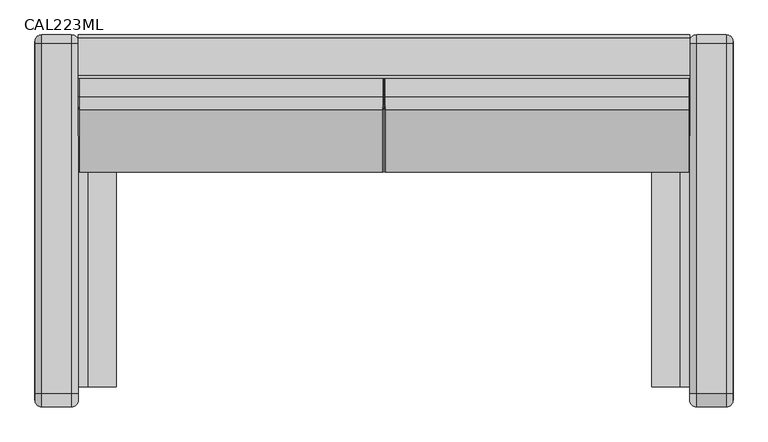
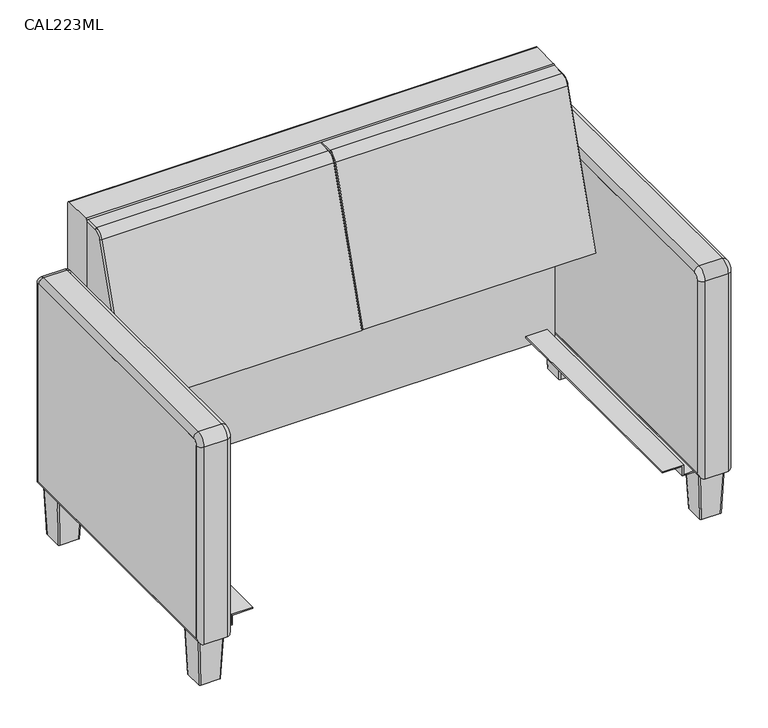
"""IFC4 building model written with IfcOpenShell, lengths in millimetres: furniture geometry, Stance_Healthacare-Carlson-Arm_Chair : CAL223ML."""

from ifc_helpers import new_model, si_unit, point, frame, frame_2d, origin, place, context, project, spatial, polyline, circle_curve, ellipse_curve, trimmed, segment, composite_curve, outline, extrude, source, transform, mapped, element, save
from ifc_brep_helpers import plane_surface, cylinder_surface, revolved_surface, extruded_surface, advanced_brep


def cal223ml_52b3e110(model_context):
    return source(origin(), model_context, "Body", "SolidModel", [
        extrude(outline(polyline([(120.65, 593.725), (123.825, 593.725), (123.825, 565.15), (149.225, 565.15), (149.225, 511.175), (146.05, 511.175), (146.05, 561.975), (120.65, 561.975), (120.65, 593.725)])), frame((0.0, -299.4664097, 0.0), z_axis=(0.0, 1.0, 0.0), x_axis=(0.0, 0.0, 1.0)), (0.0, 0.0, 1.0), 635.0),
        extrude(outline(composite_curve([segment(trimmed(circle_curve(frame_2d((357.7585903, 655.6502)), 3.175), [point((357.7585903, 658.8252))], [point((360.9335903, 655.6502))], False, "CARTESIAN"), True, "CONTINUOUS"), segment(polyline([(360.9335903, 655.6502), (360.9335903, 136.525), (-324.8664097, 136.525), (-324.8664097, 646.1252)]), True, "CONTINUOUS"), segment(trimmed(circle_curve(frame_2d((-312.1664097, 646.1252)), 12.7), [point((-324.8664097, 646.1252))], [point((-312.1664097, 658.8252))], False, "CARTESIAN"), True, "CONTINUOUS"), segment(polyline([(-312.1664097, 658.8252), (357.7585903, 658.8252)]), True, "CONTINUOUS")], self_intersect=False)), frame((584.2, 0.0, 0.0), z_axis=(1.0, 0.0, 0.0), x_axis=(0.0, 1.0, 0.0)), (0.0, 0.0, 1.0), 82.55),
        advanced_brep(
        [(596.9, 357.7585903, 671.5252), (654.05, 357.7585903, 671.5252), (654.05, 373.6335903, 655.6502), (596.9, 373.6335903, 655.6502), (584.2, 357.7585903, 658.8252), (584.2, 360.9335903, 655.6502), (666.75, 357.7585903, 658.8252), (666.75, 360.9335903, 655.6502), (596.9, -312.1664097, 671.5252), (654.05, -312.1664097, 671.5252), (584.2, -312.1664097, 658.8252), (666.75, -312.1664097, 658.8252), (596.9, -337.5664097, 646.1252), (654.05, -337.5664097, 646.1252), (584.2, -324.8664097, 646.1252), (666.75, -324.8664097, 646.1252), (596.9, -337.5664097, 123.825), (654.05, -337.5664097, 123.825), (584.2, -324.8664097, 136.525), (666.75, -324.8664097, 136.525), (596.9, 373.6335903, 123.825), (654.05, 373.6335903, 123.825), (584.2, 360.9335903, 136.525), (666.75, 360.9335903, 136.525)],
        [
            (0, 1),
            (1, 2, circle_curve(frame((654.05, 357.7585903, 655.6502), z_axis=(-1.0, 0.0, 0.0), x_axis=(0.0, 1.0, 0.0)), 15.875)),
            (2, 3),
            (3, 0, circle_curve(frame((596.9, 357.7585903, 655.6502), z_axis=(1.0, 0.0, 0.0), x_axis=(0.0, 1.0, 0.0)), 15.875)),
            (4, 0, circle_curve(frame((596.9, 357.7585903, 658.8252), z_axis=(0.0, 1.0, 0.0), x_axis=(-1.0, 0.0, 0.0)), 12.7)),
            (3, 5, circle_curve(frame((596.9, 360.9335903, 655.6502), z_axis=(0.0, 0.0, 1.0), x_axis=(-1.0, 0.0, 0.0)), 12.7)),
            (5, 4, circle_curve(frame((584.2, 357.7585903, 655.6502), z_axis=(1.0, 0.0, 0.0), x_axis=(0.0, 1.0, 0.0)), 3.175)),
            (6, 4),
            (5, 7),
            (7, 6, circle_curve(frame((666.75, 357.7585903, 655.6502), z_axis=(1.0, 0.0, 0.0), x_axis=(0.0, 1.0, 0.0)), 3.175)),
            (1, 6, circle_curve(frame((654.05, 357.7585903, 658.8252), z_axis=(0.0, 1.0, 0.0), x_axis=(-1.0, 0.0, 0.0)), 12.7)),
            (7, 2, circle_curve(frame((654.05, 360.9335903, 655.6502), z_axis=(0.0, 0.0, 1.0), x_axis=(-1.0, 0.0, 0.0)), 12.7)),
            (0, 8),
            (8, 9),
            (9, 1),
            (4, 10),
            (10, 8, circle_curve(frame((596.9, -312.1664097, 658.8252), z_axis=(0.0, 1.0, 0.0), x_axis=(-1.0, 0.0, 0.0)), 12.7)),
            (6, 11),
            (11, 10),
            (9, 11, circle_curve(frame((654.05, -312.1664097, 658.8252), z_axis=(0.0, 1.0, 0.0), x_axis=(-1.0, 0.0, 0.0)), 12.7)),
            (12, 13),
            (13, 9, circle_curve(frame((654.05, -312.1664097, 646.1252), z_axis=(-1.0, 0.0, 0.0), x_axis=(0.0, 0.0, 1.0)), 25.4)),
            (8, 12, circle_curve(frame((596.9, -312.1664097, 646.1252), z_axis=(1.0, 0.0, 0.0), x_axis=(0.0, 0.0, 1.0)), 25.4)),
            (14, 12, circle_curve(frame((596.9, -324.8664097, 646.1252), z_axis=(0.0, 0.0, 1.0), x_axis=(-1.0, 0.0, 0.0)), 12.7)),
            (10, 14, circle_curve(frame((584.2, -312.1664097, 646.1252), z_axis=(1.0, 0.0, 0.0), x_axis=(0.0, 0.0, 1.0)), 12.7)),
            (15, 14),
            (11, 15, circle_curve(frame((666.75, -312.1664097, 646.1252), z_axis=(1.0, 0.0, 0.0), x_axis=(0.0, 0.0, 1.0)), 12.7)),
            (13, 15, circle_curve(frame((654.05, -324.8664097, 646.1252), z_axis=(0.0, 0.0, 1.0), x_axis=(-1.0, 0.0, 0.0)), 12.7)),
            (12, 16),
            (16, 17),
            (17, 13),
            (14, 18),
            (18, 16, ellipse_curve(frame((596.9, -324.8664097, 136.525), z_axis=(0.0, -0.7071067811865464, 0.7071067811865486), x_axis=(0.0, 0.7071067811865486, 0.7071067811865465)), 17.9605122, 12.7)),
            (15, 19),
            (19, 18),
            (17, 19, ellipse_curve(frame((654.05, -324.8664097, 136.525), z_axis=(0.0, -0.7071067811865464, 0.7071067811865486), x_axis=(0.0, 0.7071067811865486, 0.7071067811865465)), 17.9605122, 12.7)),
            (16, 20),
            (20, 21),
            (21, 17),
            (18, 22),
            (22, 20, ellipse_curve(frame((596.9, 360.9335903, 136.525), z_axis=(0.0, -0.7071067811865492, -0.7071067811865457), x_axis=(0.0, -0.7071067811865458, 0.7071067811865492)), 17.9605122, 12.7)),
            (19, 23),
            (23, 22),
            (21, 23, ellipse_curve(frame((654.05, 360.9335903, 136.525), z_axis=(0.0, -0.7071067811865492, -0.7071067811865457), x_axis=(0.0, -0.7071067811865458, 0.7071067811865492)), 17.9605122, 12.7)),
            (20, 3),
            (2, 21),
            (22, 5),
            (23, 7),
        ],
        [
            cylinder_surface(frame((584.2, 357.7585903, 655.6502), z_axis=(-1.0, 0.0, 0.0), x_axis=(0.0, 1.0, 0.0)), 15.875),
            revolved_surface(trimmed(ellipse_curve(frame((596.9, 360.9335903, 655.6502), z_axis=(0.0, 0.0, 1.0), x_axis=(-1.0, 0.0, 0.0)), 12.7, 12.7), [point((596.9, 373.6335903, 655.6502))], [point((584.2, 360.9335903, 655.6502))], True, "CARTESIAN"), (584.2, 357.7585903, 655.6502), (-1.0, 0.0, 0.0)),
            revolved_surface(polyline([(584.2, 360.9335903, 655.6502), (666.75, 360.9335903, 655.6502)]), (584.2, 357.7585903, 655.6502), (-1.0, 0.0, 0.0)),
            revolved_surface(trimmed(ellipse_curve(frame((654.05, 360.9335903, 655.6502), z_axis=(0.0, 0.0, 1.0), x_axis=(-1.0, 0.0, 0.0)), 12.7, 12.7), [point((666.75, 360.9335903, 655.6502))], [point((654.05, 373.6335903, 655.6502))], True, "CARTESIAN"), (584.2, 357.7585903, 655.6502), (-1.0, 0.0, 0.0)),
            plane_surface(frame((654.05, 357.7585903, 671.5252), z_axis=(0.0, 0.0, 1.0), x_axis=(0.0, -1.0, 0.0))),
            cylinder_surface(frame((596.9, 357.7585903, 658.8252), z_axis=(0.0, 1.0, 0.0), x_axis=(-1.0, 0.0, 0.0)), 12.7),
            plane_surface(frame((584.2, 357.7585903, 658.8252), z_axis=(0.0, 0.0, -1.0), x_axis=(0.0, -1.0, 0.0))),
            cylinder_surface(frame((654.05, 357.7585903, 658.8252), z_axis=(0.0, 1.0, 0.0), x_axis=(-1.0, 0.0, 0.0)), 12.7),
            cylinder_surface(frame((584.2, -312.1664097, 646.1252), z_axis=(-1.0, 0.0, 0.0), x_axis=(0.0, 0.0, 1.0)), 25.4),
            revolved_surface(trimmed(ellipse_curve(frame((596.9, -312.1664097, 658.8252), z_axis=(0.0, -1.0, 0.0), x_axis=(-1.0, 0.0, 0.0)), 12.7, 12.7), [point((596.9, -312.1664097, 671.5252))], [point((584.2, -312.1664097, 658.8252))], True, "CARTESIAN"), (584.2, -312.1664097, 646.1252), (-1.0, 0.0, 0.0)),
            revolved_surface(polyline([(584.2, -312.1664097, 658.8252), (666.75, -312.1664097, 658.8252)]), (584.2, -312.1664097, 646.1252), (-1.0, 0.0, 0.0)),
            revolved_surface(trimmed(ellipse_curve(frame((654.05, -312.1664097, 658.8252), z_axis=(0.0, -1.0, 0.0), x_axis=(-1.0, 0.0, 0.0)), 12.7, 12.7), [point((666.75, -312.1664097, 658.8252))], [point((654.05, -312.1664097, 671.5252))], True, "CARTESIAN"), (584.2, -312.1664097, 646.1252), (-1.0, 0.0, 0.0)),
            plane_surface(frame((654.05, -337.5664097, 646.1252), z_axis=(0.0, -1.0, 0.0), x_axis=(0.0, 0.0, -1.0))),
            cylinder_surface(frame((596.9, -324.8664097, 646.1252), z_axis=(0.0, 0.0, 1.0), x_axis=(-1.0, 0.0, 0.0)), 12.7),
            plane_surface(frame((584.2, -324.8664097, 646.1252), z_axis=(0.0, 1.0, 0.0), x_axis=(0.0, 0.0, -1.0))),
            cylinder_surface(frame((654.05, -324.8664097, 646.1252), z_axis=(0.0, 0.0, 1.0), x_axis=(-1.0, 0.0, 0.0)), 12.7),
            plane_surface(frame((654.05, -337.5664097, 123.825), z_axis=(0.0, 0.0, -1.0), x_axis=(0.0, 1.0, 0.0))),
            cylinder_surface(frame((596.9, -337.5664097, 136.525), z_axis=(0.0, -1.0, 0.0), x_axis=(-1.0, 0.0, 0.0)), 12.7),
            plane_surface(frame((584.2, -324.8664097, 136.525), z_axis=(0.0, 0.0, 1.0), x_axis=(0.0, 1.0, 0.0))),
            cylinder_surface(frame((654.05, -337.5664097, 136.525), z_axis=(0.0, -1.0, 0.0), x_axis=(-1.0, 0.0, 0.0)), 12.7),
            plane_surface(frame((654.05, 373.6335903, 123.825), z_axis=(0.0, 1.0, 0.0), x_axis=(0.0, 0.0, 1.0))),
            cylinder_surface(frame((596.9, 360.9335903, 123.825), z_axis=(0.0, 0.0, -1.0), x_axis=(-1.0, 0.0, 0.0)), 12.7),
            plane_surface(frame((584.2, 360.9335903, 136.525), z_axis=(0.0, -1.0, 0.0), x_axis=(0.0, 0.0, 1.0))),
            cylinder_surface(frame((654.05, 360.9335903, 123.825), z_axis=(0.0, 0.0, -1.0), x_axis=(-1.0, 0.0, 0.0)), 12.7),
        ],
        [
            (0, [[1, 2, 3, 4]]),
            (1, [[5, -4, 6, 7]]),
            (2, [[8, -7, 9, 10]]),
            (3, [[11, -10, 12, -2]]),
            (4, [[13, 14, 15, -1]]),
            (5, [[16, 17, -13, -5]]),
            (6, [[18, 19, -16, -8]]),
            (7, [[-15, 20, -18, -11]]),
            (8, [[21, 22, -14, 23]]),
            (9, [[24, -23, -17, 25]]),
            (10, [[26, -25, -19, 27]]),
            (11, [[28, -27, -20, -22]]),
            (12, [[29, 30, 31, -21]]),
            (13, [[32, 33, -29, -24]]),
            (14, [[34, 35, -32, -26]]),
            (15, [[-31, 36, -34, -28]]),
            (16, [[37, 38, 39, -30]]),
            (17, [[40, 41, -37, -33]]),
            (18, [[42, 43, -40, -35]]),
            (19, [[-39, 44, -42, -36]]),
            (20, [[45, -3, 46, -38]]),
            (21, [[47, -6, -45, -41]]),
            (22, [[48, -9, -47, -43]]),
            (23, [[-46, -12, -48, -44]]),
        ],
    ),
        advanced_brep(
        [(596.9, 291.0835903, 123.825), (654.05, 291.0835903, 123.825), (657.225, 294.2585903, 123.825), (657.225, 351.4085903, 123.825), (654.05, 354.5835903, 123.825), (596.9, 354.5835903, 123.825), (593.725, 351.4085903, 123.825), (593.725, 294.2585903, 123.825), (602.059375, 296.2112153, 0.0), (598.884375, 299.3862153, 0.0), (598.884375, 346.2809653, 0.0), (602.059375, 349.4559653, 0.0), (648.890625, 349.4559653, 0.0), (652.065625, 346.2809653, 0.0), (652.065625, 299.3862153, 0.0), (648.890625, 296.2112153, 0.0)],
        [
            (0, 1),
            (1, 2, circle_curve(frame((654.05, 294.2585903, 123.825), z_axis=(0.0, 0.0, 1.0), x_axis=(-1.0, 0.0, 0.0)), 3.175)),
            (2, 3),
            (3, 4, circle_curve(frame((654.05, 351.4085903, 123.825), z_axis=(0.0, 0.0, 1.0), x_axis=(-1.0, 0.0, 0.0)), 3.175)),
            (4, 5),
            (5, 6, circle_curve(frame((596.9, 351.4085903, 123.825), z_axis=(0.0, 0.0, 1.0), x_axis=(-1.0, 0.0, 0.0)), 3.175)),
            (6, 7),
            (7, 0, circle_curve(frame((596.9, 294.2585903, 123.825), z_axis=(0.0, 0.0, 1.0), x_axis=(-1.0, 0.0, 0.0)), 3.175)),
            (8, 9, circle_curve(frame((602.059375, 299.3862153, 0.0), z_axis=(0.0, 0.0, -1.0), x_axis=(-1.0, 0.0, 0.0)), 3.175)),
            (9, 10),
            (10, 11, circle_curve(frame((602.059375, 346.2809653, 0.0), z_axis=(0.0, 0.0, -1.0), x_axis=(-1.0, 0.0, 0.0)), 3.175)),
            (11, 12),
            (12, 13, circle_curve(frame((648.890625, 346.2809653, 0.0), z_axis=(0.0, 0.0, -1.0), x_axis=(-1.0, 0.0, 0.0)), 3.175)),
            (13, 14),
            (14, 15, circle_curve(frame((648.890625, 299.3862153, 0.0), z_axis=(0.0, 0.0, -1.0), x_axis=(-1.0, 0.0, 0.0)), 3.175)),
            (15, 8),
            (8, 0),
            (7, 9),
            (6, 10),
            (5, 11),
            (4, 12),
            (3, 13),
            (2, 14),
            (1, 15),
        ],
        [
            plane_surface(frame((625.475, 322.8335903, 123.825), z_axis=(0.0, 0.0, 1.0), x_axis=(-1.0, 0.0, 0.0))),
            plane_surface(frame((625.475, 322.8335903, 0.0), z_axis=(0.0, 0.0, -1.0), x_axis=(-1.0, 0.0, 0.0))),
            extruded_surface(trimmed(circle_curve(frame((596.9, 294.2585903, 123.825), z_axis=(0.0, 0.0, -1.0), x_axis=(-1.0, 0.0, 0.0)), 3.175), [point((596.9, 291.0835903, 123.825))], [point((593.725, 294.2585903, 123.825))], True, "CARTESIAN"), (5.159375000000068, 5.127625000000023, -123.825), 124.03847110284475),
            plane_surface(frame((598.884375, 322.8335903, 0.0), z_axis=(-0.9991330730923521, 0.0, -0.04163054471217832), x_axis=(0.0, 1.0, 0.0))),
            extruded_surface(trimmed(circle_curve(frame((596.9, 351.4085903, 123.825), z_axis=(0.0, 0.0, -1.0), x_axis=(-1.0, 0.0, 0.0)), 3.175), [point((593.725, 351.4085903, 123.825))], [point((596.9, 354.5835903, 123.825))], True, "CARTESIAN"), (5.159375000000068, -5.127625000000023, -123.825), 124.03847110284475),
            plane_surface(frame((625.475, 349.4559653, 0.0), z_axis=(0.0, 0.9991436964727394, -0.04137479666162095), x_axis=(1.0, 0.0, 0.0))),
            extruded_surface(trimmed(circle_curve(frame((654.05, 351.4085903, 123.825), z_axis=(0.0, 0.0, -1.0), x_axis=(-1.0, 0.0, 0.0)), 3.175), [point((654.05, 354.5835903, 123.825))], [point((657.225, 351.4085903, 123.825))], True, "CARTESIAN"), (-5.1593749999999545, -5.127625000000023, -123.825), 124.03847110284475),
            plane_surface(frame((652.065625, 322.8335903, 0.0), z_axis=(0.9991330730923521, 0.0, -0.04163054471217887), x_axis=(0.0, -1.0, 0.0))),
            extruded_surface(trimmed(circle_curve(frame((654.05, 294.2585903, 123.825), z_axis=(0.0, 0.0, -1.0), x_axis=(-1.0, 0.0, 0.0)), 3.175), [point((657.225, 294.2585903, 123.825))], [point((654.05, 291.0835903, 123.825))], True, "CARTESIAN"), (-5.1593749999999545, 5.127625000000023, -123.825), 124.03847110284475),
            plane_surface(frame((625.475, 296.2112153, 0.0), z_axis=(0.0, -0.9991436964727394, -0.0413747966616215), x_axis=(-1.0, 0.0, 0.0))),
        ],
        [
            (0, [[1, 2, 3, 4, 5, 6, 7, 8]]),
            (1, [[9, 10, 11, 12, 13, 14, 15, 16]]),
            (2, [[17, -8, 18, -9]]),
            (3, [[-18, -7, 19, -10]]),
            (4, [[-19, -6, 20, -11]]),
            (5, [[-20, -5, 21, -12]]),
            (6, [[-21, -4, 22, -13]]),
            (7, [[-22, -3, 23, -14]]),
            (8, [[-23, -2, 24, -15]]),
            (9, [[-24, -1, -17, -16]]),
        ],
    ),
        advanced_brep(
        [(596.9, -255.0164097, 123.825), (593.725, -258.1914097, 123.825), (593.725, -315.3414097, 123.825), (596.9, -318.5164097, 123.825), (654.05, -318.5164097, 123.825), (657.225, -315.3414097, 123.825), (657.225, -258.1914097, 123.825), (654.05, -255.0164097, 123.825), (602.059375, -260.1440347, 0.0), (648.890625, -260.1440347, 0.0), (652.065625, -263.3190347, 0.0), (652.065625, -310.2137847, 0.0), (648.890625, -313.3887847, 0.0), (602.059375, -313.3887847, 0.0), (598.884375, -310.2137847, 0.0), (598.884375, -263.3190347, 0.0)],
        [
            (0, 1, circle_curve(frame((596.9, -258.1914097, 123.825), z_axis=(0.0, 0.0, 1.0), x_axis=(-1.0, 0.0, 0.0)), 3.175)),
            (1, 2),
            (2, 3, circle_curve(frame((596.9, -315.3414097, 123.825), z_axis=(0.0, 0.0, 1.0), x_axis=(-1.0, 0.0, 0.0)), 3.175)),
            (3, 4),
            (4, 5, circle_curve(frame((654.05, -315.3414097, 123.825), z_axis=(0.0, 0.0, 1.0), x_axis=(-1.0, 0.0, 0.0)), 3.175)),
            (5, 6),
            (6, 7, circle_curve(frame((654.05, -258.1914097, 123.825), z_axis=(0.0, 0.0, 1.0), x_axis=(-1.0, 0.0, 0.0)), 3.175)),
            (7, 0),
            (8, 9),
            (9, 10, circle_curve(frame((648.890625, -263.3190347, 0.0), z_axis=(0.0, 0.0, -1.0), x_axis=(-1.0, 0.0, 0.0)), 3.175)),
            (10, 11),
            (11, 12, circle_curve(frame((648.890625, -310.2137847, 0.0), z_axis=(0.0, 0.0, -1.0), x_axis=(-1.0, 0.0, 0.0)), 3.175)),
            (12, 13),
            (13, 14, circle_curve(frame((602.059375, -310.2137847, 0.0), z_axis=(0.0, 0.0, -1.0), x_axis=(-1.0, 0.0, 0.0)), 3.175)),
            (14, 15),
            (15, 8, circle_curve(frame((602.059375, -263.3190347, 0.0), z_axis=(0.0, 0.0, -1.0), x_axis=(-1.0, 0.0, 0.0)), 3.175)),
            (8, 0),
            (7, 9),
            (6, 10),
            (5, 11),
            (4, 12),
            (3, 13),
            (2, 14),
            (1, 15),
        ],
        [
            plane_surface(frame((625.475, -286.7664097, 123.825), z_axis=(0.0, 0.0, 1.0), x_axis=(-1.0, 0.0, 0.0))),
            plane_surface(frame((625.475, -286.7664097, 0.0), z_axis=(0.0, 0.0, -1.0), x_axis=(-1.0, 0.0, 0.0))),
            plane_surface(frame((625.475, -260.1440347, 0.0), z_axis=(0.0, 0.9991436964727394, -0.041374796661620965), x_axis=(1.0, 0.0, 0.0))),
            extruded_surface(trimmed(circle_curve(frame((654.05, -258.1914097, 123.825), z_axis=(0.0, 0.0, -1.0), x_axis=(-1.0, 0.0, 0.0)), 3.175), [point((654.05, -255.0164097, 123.825))], [point((657.225, -258.1914097, 123.825))], True, "CARTESIAN"), (-5.1593749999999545, -5.127624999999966, -123.825), 124.03847110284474),
            plane_surface(frame((652.065625, -286.7664097, 0.0), z_axis=(0.9991330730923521, 0.0, -0.04163054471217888), x_axis=(0.0, -1.0, 0.0))),
            extruded_surface(trimmed(circle_curve(frame((654.05, -315.3414097, 123.825), z_axis=(0.0, 0.0, -1.0), x_axis=(-1.0, 0.0, 0.0)), 3.175), [point((657.225, -315.3414097, 123.825))], [point((654.05, -318.5164097, 123.825))], True, "CARTESIAN"), (-5.1593749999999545, 5.127624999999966, -123.825), 124.03847110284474),
            plane_surface(frame((625.475, -313.3887847, 0.0), z_axis=(0.0, -0.9991436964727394, -0.041374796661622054), x_axis=(-1.0, 0.0, 0.0))),
            extruded_surface(trimmed(circle_curve(frame((596.9, -315.3414097, 123.825), z_axis=(0.0, 0.0, -1.0), x_axis=(-1.0, 0.0, 0.0)), 3.175), [point((596.9, -318.5164097, 123.825))], [point((593.725, -315.3414097, 123.825))], True, "CARTESIAN"), (5.159375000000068, 5.127624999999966, -123.825), 124.03847110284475),
            plane_surface(frame((598.884375, -286.7664097, 0.0), z_axis=(-0.9991330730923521, 0.0, -0.041630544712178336), x_axis=(0.0, 1.0, 0.0))),
            extruded_surface(trimmed(circle_curve(frame((596.9, -258.1914097, 123.825), z_axis=(0.0, 0.0, -1.0), x_axis=(-1.0, 0.0, 0.0)), 3.175), [point((593.725, -258.1914097, 123.825))], [point((596.9, -255.0164097, 123.825))], True, "CARTESIAN"), (5.159375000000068, -5.127624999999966, -123.825), 124.03847110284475),
        ],
        [
            (0, [[1, 2, 3, 4, 5, 6, 7, 8]]),
            (1, [[9, 10, 11, 12, 13, 14, 15, 16]]),
            (2, [[17, -8, 18, -9]]),
            (3, [[-18, -7, 19, -10]]),
            (4, [[-19, -6, 20, -11]]),
            (5, [[-20, -5, 21, -12]]),
            (6, [[-21, -4, 22, -13]]),
            (7, [[-22, -3, 23, -14]]),
            (8, [[-23, -2, 24, -15]]),
            (9, [[-24, -1, -17, -16]]),
        ],
    ),
        extrude(outline(polyline([(120.65, -593.725), (120.65, -561.975), (146.05, -561.975), (146.05, -511.175), (149.225, -511.175), (149.225, -565.15), (123.825, -565.15), (123.825, -593.725), (120.65, -593.725)])), frame((0.0, -299.4664097, 0.0), z_axis=(0.0, 1.0, 0.0), x_axis=(0.0, 0.0, 1.0)), (0.0, 0.0, 1.0), 635.0),
        extrude(outline(composite_curve([segment(trimmed(circle_curve(frame_2d((357.7585903, 655.6502)), 3.175), [point((357.7585903, 658.8252))], [point((360.9335903, 655.6502))], False, "CARTESIAN"), True, "CONTINUOUS"), segment(polyline([(360.9335903, 655.6502), (360.9335903, 136.525), (-324.8664097, 136.525), (-324.8664097, 646.1252)]), True, "CONTINUOUS"), segment(trimmed(circle_curve(frame_2d((-312.1664097, 646.1252)), 12.7), [point((-324.8664097, 646.1252))], [point((-312.1664097, 658.8252))], False, "CARTESIAN"), True, "CONTINUOUS"), segment(polyline([(-312.1664097, 658.8252), (357.7585903, 658.8252)]), True, "CONTINUOUS")], self_intersect=False)), frame((-666.75, 0.0, 0.0), z_axis=(1.0, 0.0, 0.0), x_axis=(0.0, 1.0, 0.0)), (0.0, 0.0, 1.0), 82.55),
        advanced_brep(
        [(-596.9, 357.7585903, 671.5252), (-596.9, 373.6335903, 655.6502), (-654.05, 373.6335903, 655.6502), (-654.05, 357.7585903, 671.5252), (-584.2, 357.7585903, 658.8252), (-584.2, 360.9335903, 655.6502), (-666.75, 357.7585903, 658.8252), (-666.75, 360.9335903, 655.6502), (-654.05, -312.1664097, 671.5252), (-596.9, -312.1664097, 671.5252), (-584.2, -312.1664097, 658.8252), (-666.75, -312.1664097, 658.8252), (-596.9, -337.5664097, 646.1252), (-654.05, -337.5664097, 646.1252), (-584.2, -324.8664097, 646.1252), (-666.75, -324.8664097, 646.1252), (-654.05, -337.5664097, 123.825), (-596.9, -337.5664097, 123.825), (-584.2, -324.8664097, 136.525), (-666.75, -324.8664097, 136.525), (-654.05, 373.6335903, 123.825), (-596.9, 373.6335903, 123.825), (-584.2, 360.9335903, 136.525), (-666.75, 360.9335903, 136.525)],
        [
            (0, 1, circle_curve(frame((-596.9, 357.7585903, 655.6502), z_axis=(-1.0, 0.0, 0.0), x_axis=(0.0, 1.0, 0.0)), 15.875)),
            (1, 2),
            (2, 3, circle_curve(frame((-654.05, 357.7585903, 655.6502), z_axis=(1.0, 0.0, 0.0), x_axis=(0.0, 1.0, 0.0)), 15.875)),
            (3, 0),
            (4, 5, circle_curve(frame((-584.2, 357.7585903, 655.6502), z_axis=(-1.0, 0.0, 0.0), x_axis=(0.0, 1.0, 0.0)), 3.175)),
            (5, 1, circle_curve(frame((-596.9, 360.9335903, 655.6502), z_axis=(0.0, 0.0, 1.0), x_axis=(1.0, 0.0, 0.0)), 12.7)),
            (0, 4, circle_curve(frame((-596.9, 357.7585903, 658.8252), z_axis=(0.0, 1.0, 0.0), x_axis=(1.0, 0.0, 0.0)), 12.7)),
            (6, 7, circle_curve(frame((-666.75, 357.7585903, 655.6502), z_axis=(-1.0, 0.0, 0.0), x_axis=(0.0, 1.0, 0.0)), 3.175)),
            (7, 5),
            (4, 6),
            (2, 7, circle_curve(frame((-654.05, 360.9335903, 655.6502), z_axis=(0.0, 0.0, 1.0), x_axis=(1.0, 0.0, 0.0)), 12.7)),
            (6, 3, circle_curve(frame((-654.05, 357.7585903, 658.8252), z_axis=(0.0, 1.0, 0.0), x_axis=(1.0, 0.0, 0.0)), 12.7)),
            (3, 8),
            (8, 9),
            (9, 0),
            (9, 10, circle_curve(frame((-596.9, -312.1664097, 658.8252), z_axis=(0.0, 1.0, 0.0), x_axis=(1.0, 0.0, 0.0)), 12.7)),
            (10, 4),
            (10, 11),
            (11, 6),
            (11, 8, circle_curve(frame((-654.05, -312.1664097, 658.8252), z_axis=(0.0, 1.0, 0.0), x_axis=(1.0, 0.0, 0.0)), 12.7)),
            (12, 9, circle_curve(frame((-596.9, -312.1664097, 646.1252), z_axis=(-1.0, 0.0, 0.0), x_axis=(0.0, 0.0, 1.0)), 25.4)),
            (8, 13, circle_curve(frame((-654.05, -312.1664097, 646.1252), z_axis=(1.0, 0.0, 0.0), x_axis=(0.0, 0.0, 1.0)), 25.4)),
            (13, 12),
            (14, 10, circle_curve(frame((-584.2, -312.1664097, 646.1252), z_axis=(-1.0, 0.0, 0.0), x_axis=(0.0, 0.0, 1.0)), 12.7)),
            (12, 14, circle_curve(frame((-596.9, -324.8664097, 646.1252), z_axis=(0.0, 0.0, 1.0), x_axis=(1.0, 0.0, 0.0)), 12.7)),
            (15, 11, circle_curve(frame((-666.75, -312.1664097, 646.1252), z_axis=(-1.0, 0.0, 0.0), x_axis=(0.0, 0.0, 1.0)), 12.7)),
            (14, 15),
            (15, 13, circle_curve(frame((-654.05, -324.8664097, 646.1252), z_axis=(0.0, 0.0, 1.0), x_axis=(1.0, 0.0, 0.0)), 12.7)),
            (13, 16),
            (16, 17),
            (17, 12),
            (17, 18, ellipse_curve(frame((-596.9, -324.8664097, 136.525), z_axis=(0.0, -0.7071067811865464, 0.7071067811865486), x_axis=(0.0, 0.7071067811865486, 0.7071067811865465)), 17.9605122, 12.7)),
            (18, 14),
            (18, 19),
            (19, 15),
            (19, 16, ellipse_curve(frame((-654.05, -324.8664097, 136.525), z_axis=(0.0, -0.7071067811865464, 0.7071067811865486), x_axis=(0.0, 0.7071067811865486, 0.7071067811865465)), 17.9605122, 12.7)),
            (16, 20),
            (20, 21),
            (21, 17),
            (21, 22, ellipse_curve(frame((-596.9, 360.9335903, 136.525), z_axis=(0.0, -0.7071067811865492, -0.7071067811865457), x_axis=(0.0, -0.7071067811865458, 0.7071067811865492)), 17.9605122, 12.7)),
            (22, 18),
            (22, 23),
            (23, 19),
            (23, 20, ellipse_curve(frame((-654.05, 360.9335903, 136.525), z_axis=(0.0, -0.7071067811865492, -0.7071067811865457), x_axis=(0.0, -0.7071067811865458, 0.7071067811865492)), 17.9605122, 12.7)),
            (20, 2),
            (1, 21),
            (5, 22),
            (7, 23),
        ],
        [
            cylinder_surface(frame((-584.2, 357.7585903, 655.6502), z_axis=(1.0, 0.0, 0.0), x_axis=(0.0, 1.0, 0.0)), 15.875),
            revolved_surface(trimmed(ellipse_curve(frame((-596.9, 360.9335903, 655.6502), z_axis=(0.0, 0.0, -1.0), x_axis=(1.0, 0.0, 0.0)), 12.7, 12.7), [point((-596.9, 373.6335903, 655.6502))], [point((-584.2, 360.9335903, 655.6502))], True, "CARTESIAN"), (-584.2, 357.7585903, 655.6502), (1.0, 0.0, 0.0)),
            revolved_surface(polyline([(-584.2, 360.9335903, 655.6502), (-666.75, 360.9335903, 655.6502)]), (-584.2, 357.7585903, 655.6502), (1.0, 0.0, 0.0)),
            revolved_surface(trimmed(ellipse_curve(frame((-654.05, 360.9335903, 655.6502), z_axis=(0.0, 0.0, -1.0), x_axis=(1.0, 0.0, 0.0)), 12.7, 12.7), [point((-666.75, 360.9335903, 655.6502))], [point((-654.05, 373.6335903, 655.6502))], True, "CARTESIAN"), (-584.2, 357.7585903, 655.6502), (1.0, 0.0, 0.0)),
            plane_surface(frame((-654.05, 357.7585903, 671.5252), z_axis=(0.0, 0.0, 1.0), x_axis=(0.0, -1.0, 0.0))),
            cylinder_surface(frame((-596.9, 357.7585903, 658.8252), z_axis=(0.0, 1.0, 0.0), x_axis=(1.0, 0.0, 0.0)), 12.7),
            plane_surface(frame((-584.2, 357.7585903, 658.8252), z_axis=(0.0, 0.0, -1.0), x_axis=(0.0, -1.0, 0.0))),
            cylinder_surface(frame((-654.05, 357.7585903, 658.8252), z_axis=(0.0, 1.0, 0.0), x_axis=(1.0, 0.0, 0.0)), 12.7),
            cylinder_surface(frame((-584.2, -312.1664097, 646.1252), z_axis=(1.0, 0.0, 0.0), x_axis=(0.0, 0.0, 1.0)), 25.4),
            revolved_surface(trimmed(ellipse_curve(frame((-596.9, -312.1664097, 658.8252), z_axis=(0.0, 1.0, 0.0), x_axis=(1.0, 0.0, 0.0)), 12.7, 12.7), [point((-596.9, -312.1664097, 671.5252))], [point((-584.2, -312.1664097, 658.8252))], True, "CARTESIAN"), (-584.2, -312.1664097, 646.1252), (1.0, 0.0, 0.0)),
            revolved_surface(polyline([(-584.2, -312.1664097, 658.8252), (-666.75, -312.1664097, 658.8252)]), (-584.2, -312.1664097, 646.1252), (1.0, 0.0, 0.0)),
            revolved_surface(trimmed(ellipse_curve(frame((-654.05, -312.1664097, 658.8252), z_axis=(0.0, 1.0, 0.0), x_axis=(1.0, 0.0, 0.0)), 12.7, 12.7), [point((-666.75, -312.1664097, 658.8252))], [point((-654.05, -312.1664097, 671.5252))], True, "CARTESIAN"), (-584.2, -312.1664097, 646.1252), (1.0, 0.0, 0.0)),
            plane_surface(frame((-654.05, -337.5664097, 646.1252), z_axis=(0.0, -1.0, 0.0), x_axis=(0.0, 0.0, -1.0))),
            cylinder_surface(frame((-596.9, -324.8664097, 646.1252), z_axis=(0.0, 0.0, 1.0), x_axis=(1.0, 0.0, 0.0)), 12.7),
            plane_surface(frame((-584.2, -324.8664097, 646.1252), z_axis=(0.0, 1.0, 0.0), x_axis=(0.0, 0.0, -1.0))),
            cylinder_surface(frame((-654.05, -324.8664097, 646.1252), z_axis=(0.0, 0.0, 1.0), x_axis=(1.0, 0.0, 0.0)), 12.7),
            plane_surface(frame((-654.05, -337.5664097, 123.825), z_axis=(0.0, 0.0, -1.0), x_axis=(0.0, 1.0, 0.0))),
            cylinder_surface(frame((-596.9, -337.5664097, 136.525), z_axis=(0.0, -1.0, 0.0), x_axis=(1.0, 0.0, 0.0)), 12.7),
            plane_surface(frame((-584.2, -324.8664097, 136.525), z_axis=(0.0, 0.0, 1.0), x_axis=(0.0, 1.0, 0.0))),
            cylinder_surface(frame((-654.05, -337.5664097, 136.525), z_axis=(0.0, -1.0, 0.0), x_axis=(1.0, 0.0, 0.0)), 12.7),
            plane_surface(frame((-654.05, 373.6335903, 123.825), z_axis=(0.0, 1.0, 0.0), x_axis=(0.0, 0.0, 1.0))),
            cylinder_surface(frame((-596.9, 360.9335903, 123.825), z_axis=(0.0, 0.0, -1.0), x_axis=(1.0, 0.0, 0.0)), 12.7),
            plane_surface(frame((-584.2, 360.9335903, 136.525), z_axis=(0.0, -1.0, 0.0), x_axis=(0.0, 0.0, 1.0))),
            cylinder_surface(frame((-654.05, 360.9335903, 123.825), z_axis=(0.0, 0.0, -1.0), x_axis=(1.0, 0.0, 0.0)), 12.7),
        ],
        [
            (0, [[1, 2, 3, 4]]),
            (1, [[5, 6, -1, 7]]),
            (2, [[8, 9, -5, 10]]),
            (3, [[-3, 11, -8, 12]]),
            (4, [[-4, 13, 14, 15]]),
            (5, [[-7, -15, 16, 17]]),
            (6, [[-10, -17, 18, 19]]),
            (7, [[-12, -19, 20, -13]]),
            (8, [[21, -14, 22, 23]]),
            (9, [[24, -16, -21, 25]]),
            (10, [[26, -18, -24, 27]]),
            (11, [[-22, -20, -26, 28]]),
            (12, [[-23, 29, 30, 31]]),
            (13, [[-25, -31, 32, 33]]),
            (14, [[-27, -33, 34, 35]]),
            (15, [[-28, -35, 36, -29]]),
            (16, [[-30, 37, 38, 39]]),
            (17, [[-32, -39, 40, 41]]),
            (18, [[-34, -41, 42, 43]]),
            (19, [[-36, -43, 44, -37]]),
            (20, [[-38, 45, -2, 46]]),
            (21, [[-40, -46, -6, 47]]),
            (22, [[-42, -47, -9, 48]]),
            (23, [[-44, -48, -11, -45]]),
        ],
    ),
        advanced_brep(
        [(-596.9, 291.0835903, 123.825), (-593.725, 294.2585903, 123.825), (-593.725, 351.4085903, 123.825), (-596.9, 354.5835903, 123.825), (-654.05, 354.5835903, 123.825), (-657.225, 351.4085903, 123.825), (-657.225, 294.2585903, 123.825), (-654.05, 291.0835903, 123.825), (-602.059375, 296.2112153, 0.0), (-648.890625, 296.2112153, 0.0), (-652.065625, 299.3862153, 0.0), (-652.065625, 346.2809653, 0.0), (-648.890625, 349.4559653, 0.0), (-602.059375, 349.4559653, 0.0), (-598.884375, 346.2809653, 0.0), (-598.884375, 299.3862153, 0.0)],
        [
            (0, 1, circle_curve(frame((-596.9, 294.2585903, 123.825), z_axis=(0.0, 0.0, 1.0), x_axis=(1.0, 0.0, 0.0)), 3.175)),
            (1, 2),
            (2, 3, circle_curve(frame((-596.9, 351.4085903, 123.825), z_axis=(0.0, 0.0, 1.0), x_axis=(1.0, 0.0, 0.0)), 3.175)),
            (3, 4),
            (4, 5, circle_curve(frame((-654.05, 351.4085903, 123.825), z_axis=(0.0, 0.0, 1.0), x_axis=(1.0, 0.0, 0.0)), 3.175)),
            (5, 6),
            (6, 7, circle_curve(frame((-654.05, 294.2585903, 123.825), z_axis=(0.0, 0.0, 1.0), x_axis=(1.0, 0.0, 0.0)), 3.175)),
            (7, 0),
            (8, 9),
            (9, 10, circle_curve(frame((-648.890625, 299.3862153, 0.0), z_axis=(0.0, 0.0, -1.0), x_axis=(1.0, 0.0, 0.0)), 3.175)),
            (10, 11),
            (11, 12, circle_curve(frame((-648.890625, 346.2809653, 0.0), z_axis=(0.0, 0.0, -1.0), x_axis=(1.0, 0.0, 0.0)), 3.175)),
            (12, 13),
            (13, 14, circle_curve(frame((-602.059375, 346.2809653, 0.0), z_axis=(0.0, 0.0, -1.0), x_axis=(1.0, 0.0, 0.0)), 3.175)),
            (14, 15),
            (15, 8, circle_curve(frame((-602.059375, 299.3862153, 0.0), z_axis=(0.0, 0.0, -1.0), x_axis=(1.0, 0.0, 0.0)), 3.175)),
            (15, 1),
            (0, 8),
            (14, 2),
            (13, 3),
            (12, 4),
            (11, 5),
            (10, 6),
            (9, 7),
        ],
        [
            plane_surface(frame((-625.475, 322.8335903, 123.825), z_axis=(0.0, 0.0, 1.0), x_axis=(1.0, 0.0, 0.0))),
            plane_surface(frame((-625.475, 322.8335903, 0.0), z_axis=(0.0, 0.0, -1.0), x_axis=(1.0, 0.0, 0.0))),
            extruded_surface(trimmed(circle_curve(frame((-602.059375, 299.3862153, 0.0), z_axis=(0.0, 0.0, 1.0), x_axis=(1.0, 0.0, 0.0)), 3.175), [point((-602.059375, 296.2112153, 0.0))], [point((-598.884375, 299.3862153, 0.0))], True, "CARTESIAN"), (5.159375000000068, -5.127625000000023, 123.825), 124.03847110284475),
            plane_surface(frame((-598.884375, 322.8335903, 0.0), z_axis=(0.9991330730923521, 0.0, -0.04163054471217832), x_axis=(0.0, 1.0, 0.0))),
            extruded_surface(trimmed(circle_curve(frame((-602.059375, 346.2809653, 0.0), z_axis=(0.0, 0.0, 1.0), x_axis=(1.0, 0.0, 0.0)), 3.175), [point((-598.884375, 346.2809653, 0.0))], [point((-602.059375, 349.4559653, 0.0))], True, "CARTESIAN"), (5.159375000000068, 5.127625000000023, 123.825), 124.03847110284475),
            plane_surface(frame((-625.475, 349.4559653, 0.0), z_axis=(0.0, 0.9991436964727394, -0.04137479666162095), x_axis=(-1.0, 0.0, 0.0))),
            extruded_surface(trimmed(circle_curve(frame((-648.890625, 346.2809653, 0.0), z_axis=(0.0, 0.0, 1.0), x_axis=(1.0, 0.0, 0.0)), 3.175), [point((-648.890625, 349.4559653, 0.0))], [point((-652.065625, 346.2809653, 0.0))], True, "CARTESIAN"), (-5.1593749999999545, 5.127625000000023, 123.825), 124.03847110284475),
            plane_surface(frame((-652.065625, 322.8335903, 0.0), z_axis=(-0.9991330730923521, 0.0, -0.04163054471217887), x_axis=(0.0, -1.0, 0.0))),
            extruded_surface(trimmed(circle_curve(frame((-648.890625, 299.3862153, 0.0), z_axis=(0.0, 0.0, 1.0), x_axis=(1.0, 0.0, 0.0)), 3.175), [point((-652.065625, 299.3862153, 0.0))], [point((-648.890625, 296.2112153, 0.0))], True, "CARTESIAN"), (-5.1593749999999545, -5.127625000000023, 123.825), 124.03847110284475),
            plane_surface(frame((-625.475, 296.2112153, 0.0), z_axis=(0.0, -0.9991436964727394, -0.0413747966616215), x_axis=(1.0, 0.0, 0.0))),
        ],
        [
            (0, [[1, 2, 3, 4, 5, 6, 7, 8]]),
            (1, [[9, 10, 11, 12, 13, 14, 15, 16]]),
            (2, [[-16, 17, -1, 18]]),
            (3, [[-15, 19, -2, -17]]),
            (4, [[-14, 20, -3, -19]]),
            (5, [[-13, 21, -4, -20]]),
            (6, [[-12, 22, -5, -21]]),
            (7, [[-11, 23, -6, -22]]),
            (8, [[-10, 24, -7, -23]]),
            (9, [[-9, -18, -8, -24]]),
        ],
    ),
        advanced_brep(
        [(-596.9, -255.0164097, 123.825), (-654.05, -255.0164097, 123.825), (-657.225, -258.1914097, 123.825), (-657.225, -315.3414097, 123.825), (-654.05, -318.5164097, 123.825), (-596.9, -318.5164097, 123.825), (-593.725, -315.3414097, 123.825), (-593.725, -258.1914097, 123.825), (-602.059375, -260.1440347, 0.0), (-598.884375, -263.3190347, 0.0), (-598.884375, -310.2137847, 0.0), (-602.059375, -313.3887847, 0.0), (-648.890625, -313.3887847, 0.0), (-652.065625, -310.2137847, 0.0), (-652.065625, -263.3190347, 0.0), (-648.890625, -260.1440347, 0.0)],
        [
            (0, 1),
            (1, 2, circle_curve(frame((-654.05, -258.1914097, 123.825), z_axis=(0.0, 0.0, 1.0), x_axis=(1.0, 0.0, 0.0)), 3.175)),
            (2, 3),
            (3, 4, circle_curve(frame((-654.05, -315.3414097, 123.825), z_axis=(0.0, 0.0, 1.0), x_axis=(1.0, 0.0, 0.0)), 3.175)),
            (4, 5),
            (5, 6, circle_curve(frame((-596.9, -315.3414097, 123.825), z_axis=(0.0, 0.0, 1.0), x_axis=(1.0, 0.0, 0.0)), 3.175)),
            (6, 7),
            (7, 0, circle_curve(frame((-596.9, -258.1914097, 123.825), z_axis=(0.0, 0.0, 1.0), x_axis=(1.0, 0.0, 0.0)), 3.175)),
            (8, 9, circle_curve(frame((-602.059375, -263.3190347, 0.0), z_axis=(0.0, 0.0, -1.0), x_axis=(1.0, 0.0, 0.0)), 3.175)),
            (9, 10),
            (10, 11, circle_curve(frame((-602.059375, -310.2137847, 0.0), z_axis=(0.0, 0.0, -1.0), x_axis=(1.0, 0.0, 0.0)), 3.175)),
            (11, 12),
            (12, 13, circle_curve(frame((-648.890625, -310.2137847, 0.0), z_axis=(0.0, 0.0, -1.0), x_axis=(1.0, 0.0, 0.0)), 3.175)),
            (13, 14),
            (14, 15, circle_curve(frame((-648.890625, -263.3190347, 0.0), z_axis=(0.0, 0.0, -1.0), x_axis=(1.0, 0.0, 0.0)), 3.175)),
            (15, 8),
            (15, 1),
            (0, 8),
            (14, 2),
            (13, 3),
            (12, 4),
            (11, 5),
            (10, 6),
            (9, 7),
        ],
        [
            plane_surface(frame((-625.475, -286.7664097, 123.825), z_axis=(0.0, 0.0, 1.0), x_axis=(1.0, 0.0, 0.0))),
            plane_surface(frame((-625.475, -286.7664097, 0.0), z_axis=(0.0, 0.0, -1.0), x_axis=(1.0, 0.0, 0.0))),
            plane_surface(frame((-625.475, -260.1440347, 0.0), z_axis=(0.0, 0.9991436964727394, -0.041374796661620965), x_axis=(-1.0, 0.0, 0.0))),
            extruded_surface(trimmed(circle_curve(frame((-648.890625, -263.3190347, 0.0), z_axis=(0.0, 0.0, 1.0), x_axis=(1.0, 0.0, 0.0)), 3.175), [point((-648.890625, -260.1440347, 0.0))], [point((-652.065625, -263.3190347, 0.0))], True, "CARTESIAN"), (-5.1593749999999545, 5.127624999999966, 123.825), 124.03847110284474),
            plane_surface(frame((-652.065625, -286.7664097, 0.0), z_axis=(-0.9991330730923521, 0.0, -0.04163054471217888), x_axis=(0.0, -1.0, 0.0))),
            extruded_surface(trimmed(circle_curve(frame((-648.890625, -310.2137847, 0.0), z_axis=(0.0, 0.0, 1.0), x_axis=(1.0, 0.0, 0.0)), 3.175), [point((-652.065625, -310.2137847, 0.0))], [point((-648.890625, -313.3887847, 0.0))], True, "CARTESIAN"), (-5.1593749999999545, -5.127624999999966, 123.825), 124.03847110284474),
            plane_surface(frame((-625.475, -313.3887847, 0.0), z_axis=(0.0, -0.9991436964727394, -0.041374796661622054), x_axis=(1.0, 0.0, 0.0))),
            extruded_surface(trimmed(circle_curve(frame((-602.059375, -310.2137847, 0.0), z_axis=(0.0, 0.0, 1.0), x_axis=(1.0, 0.0, 0.0)), 3.175), [point((-602.059375, -313.3887847, 0.0))], [point((-598.884375, -310.2137847, 0.0))], True, "CARTESIAN"), (5.159375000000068, -5.127624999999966, 123.825), 124.03847110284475),
            plane_surface(frame((-598.884375, -286.7664097, 0.0), z_axis=(0.9991330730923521, 0.0, -0.041630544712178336), x_axis=(0.0, 1.0, 0.0))),
            extruded_surface(trimmed(circle_curve(frame((-602.059375, -263.3190347, 0.0), z_axis=(0.0, 0.0, 1.0), x_axis=(1.0, 0.0, 0.0)), 3.175), [point((-598.884375, -263.3190347, 0.0))], [point((-602.059375, -260.1440347, 0.0))], True, "CARTESIAN"), (5.159375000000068, 5.127624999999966, 123.825), 124.03847110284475),
        ],
        [
            (0, [[1, 2, 3, 4, 5, 6, 7, 8]]),
            (1, [[9, 10, 11, 12, 13, 14, 15, 16]]),
            (2, [[-16, 17, -1, 18]]),
            (3, [[-15, 19, -2, -17]]),
            (4, [[-14, 20, -3, -19]]),
            (5, [[-13, 21, -4, -20]]),
            (6, [[-12, 22, -5, -21]]),
            (7, [[-11, 23, -6, -22]]),
            (8, [[-10, 24, -7, -23]]),
            (9, [[-9, -18, -8, -24]]),
        ],
    ),
        advanced_brep(
        [(-584.2, 255.2487311, 836.6125), (-582.0501302, 255.2487311, 841.375), (-582.0501302, 290.2429308, 841.375), (-584.2, 290.2429308, 836.6125), (-584.2, 235.6213022, 822.3523382), (-582.0501302, 231.0918956, 823.8240317), (-584.2, 115.9409077, 454.0139582), (-582.0501302, 110.9333188, 454.0139582), (584.2, 290.2429308, 454.0139582), (584.2, 290.2429308, 836.6125), (584.2, 255.2487311, 836.6125), (584.2, 235.6213022, 822.3523382), (584.2, 115.9409077, 454.0139582), (-584.2, 290.2429308, 454.0139582), (-2.1498698, 290.2429308, 841.375), (0.0, 290.2429308, 836.6125), (2.1498698, 290.2429308, 841.375), (582.0501302, 290.2429308, 841.375), (-2.1498698, 255.2487311, 841.375), (582.0501302, 255.2487311, 841.375), (2.1498698, 255.2487311, 841.375), (-2.1498698, 231.0918956, 823.8240317), (582.0501302, 231.0918956, 823.8240317), (2.1498698, 231.0918956, 823.8240317), (-2.1498698, 110.9333188, 454.0139582), (582.0501302, 110.9333188, 454.0139582), (2.1498698, 110.9333188, 454.0139582), (0.0, 115.9409077, 454.0139582), (0.0, 255.2487311, 836.6125), (0.0, 235.6213022, 822.3523382)],
        [
            (0, 1, circle_curve(frame((-577.85, 255.2487311, 836.6125), z_axis=(0.0, 1.0, 0.0), x_axis=(0.0, 0.0, -1.0)), 6.35)),
            (1, 2),
            (2, 3, circle_curve(frame((-577.85, 290.2429308, 836.6125), z_axis=(0.0, -1.0, 0.0), x_axis=(0.0, 0.0, -1.0)), 6.35)),
            (3, 0),
            (0, 4, circle_curve(frame((-584.2, 255.2487311, 815.975), z_axis=(1.0, 0.0, 0.0), x_axis=(0.0, 0.0, 1.0)), 20.6375)),
            (4, 5, circle_curve(frame((-577.85, 235.6213022, 822.3523382), z_axis=(0.0, 0.30901699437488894, 0.9510565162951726), x_axis=(0.0, 0.9510565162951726, -0.30901699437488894)), 6.35)),
            (5, 1, circle_curve(frame((-582.0501302, 255.2487311, 815.975), z_axis=(-1.0, 0.0, 0.0), x_axis=(0.0, 0.0, 1.0)), 25.4)),
            (4, 6),
            (6, 7, ellipse_curve(frame((-577.85, 115.9409077, 454.0139582), z_axis=(0.0, 0.0, 1.0), x_axis=(0.0, -1.0, 0.0)), 6.6767851, 6.35)),
            (7, 5),
            (8, 9),
            (9, 10),
            (10, 11, circle_curve(frame((584.2, 255.2487311, 815.975), z_axis=(1.0, 0.0, 0.0), x_axis=(0.0, 0.0, 1.0)), 20.6375)),
            (11, 12),
            (12, 8),
            (13, 6),
            (3, 13),
            (8, 13),
            (2, 14),
            (14, 15, circle_curve(frame((-6.35, 290.2429308, 836.6125), z_axis=(0.0, 1.0, 0.0), x_axis=(0.0, 0.0, -1.0)), 6.35)),
            (15, 16, circle_curve(frame((6.35, 290.2429308, 836.6125), z_axis=(0.0, 1.0, 0.0), x_axis=(0.0, 0.0, -1.0)), 6.35)),
            (16, 17),
            (17, 9, circle_curve(frame((577.85, 290.2429308, 836.6125), z_axis=(0.0, 1.0, 0.0), x_axis=(0.0, 0.0, -1.0)), 6.35)),
            (1, 18),
            (18, 14),
            (19, 17),
            (16, 20),
            (20, 19),
            (5, 21),
            (21, 18, circle_curve(frame((-2.1498698, 255.2487311, 815.975), z_axis=(-1.0, 0.0, 0.0), x_axis=(0.0, 1.0, 0.0)), 25.4)),
            (22, 19, circle_curve(frame((582.0501302, 255.2487311, 815.975), z_axis=(-1.0, 0.0, 0.0), x_axis=(0.0, 1.0, 0.0)), 25.4)),
            (20, 23, circle_curve(frame((2.1498698, 255.2487311, 815.975), z_axis=(1.0, 0.0, 0.0), x_axis=(0.0, 1.0, 0.0)), 25.4)),
            (23, 22),
            (7, 24),
            (24, 21),
            (25, 22),
            (23, 26),
            (26, 25),
            (12, 25, ellipse_curve(frame((577.85, 115.9409077, 454.0139582), z_axis=(0.0, 0.0, -1.0), x_axis=(0.0, -1.0, 0.0)), 6.6767851, 6.35)),
            (26, 27, ellipse_curve(frame((6.35, 115.9409077, 454.0139582), z_axis=(0.0, 0.0, -1.0), x_axis=(0.0, -1.0, 0.0)), 6.6767851, 6.35)),
            (27, 24, ellipse_curve(frame((-6.35, 115.9409077, 454.0139582), z_axis=(0.0, 0.0, -1.0), x_axis=(0.0, -1.0, 0.0)), 6.6767851, 6.35)),
            (19, 10, circle_curve(frame((577.85, 255.2487311, 836.6125), z_axis=(0.0, 1.0, 0.0), x_axis=(0.0, 0.0, -1.0)), 6.35)),
            (22, 11, circle_curve(frame((577.85, 235.6213022, 822.3523382), z_axis=(0.0, 0.3090169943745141, 0.9510565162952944), x_axis=(0.0, 0.9510565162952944, -0.3090169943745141)), 6.35)),
            (15, 28),
            (28, 20, circle_curve(frame((6.35, 255.2487311, 836.6125), z_axis=(0.0, 1.0, 0.0), x_axis=(0.0, 0.0, -1.0)), 6.35)),
            (18, 28, circle_curve(frame((-6.35, 255.2487311, 836.6125), z_axis=(0.0, 1.0, 0.0), x_axis=(0.0, 0.0, -1.0)), 6.35)),
            (28, 29, circle_curve(frame((0.0, 255.2487311, 815.975), z_axis=(1.0, 0.0, 0.0), x_axis=(0.0, 0.0, 1.0)), 20.6375)),
            (29, 23, circle_curve(frame((6.35, 235.6213022, 822.3523382), z_axis=(0.0, 0.30901699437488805, 0.951056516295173), x_axis=(0.0, 0.951056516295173, -0.30901699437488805)), 6.35)),
            (21, 29, circle_curve(frame((-6.35, 235.6213022, 822.3523382), z_axis=(0.0, 0.30901699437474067, 0.9510565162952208), x_axis=(0.0, 0.9510565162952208, -0.30901699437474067)), 6.35)),
            (29, 27),
        ],
        [
            cylinder_surface(frame((-577.85, 290.2429308, 836.6125), z_axis=(0.0, -1.0, 0.0), x_axis=(0.0, 0.0, -1.0)), 6.35),
            revolved_surface(trimmed(ellipse_curve(frame((-577.85, 255.2487311, 836.6125), z_axis=(0.0, 1.0, 0.0), x_axis=(0.0, 0.0, -1.0)), 6.35, 6.35), [point((-584.2, 255.2487311, 836.6125))], [point((-577.85, 255.2487311, 842.9625))], True, "CARTESIAN"), (-584.2, 255.2487311, 815.975), (1.0, 0.0, 0.0)),
            cylinder_surface(frame((-577.85, 235.6213022, 822.3523382), z_axis=(0.0, -0.3090169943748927, -0.9510565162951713), x_axis=(0.0, 0.9510565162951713, -0.3090169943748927)), 6.35),
            plane_surface(frame((584.2, 290.2429308, 841.375), z_axis=(1.0, 0.0, 0.0), x_axis=(0.0, 0.0, 1.0))),
            plane_surface(frame((-584.2, 290.2429308, 841.375), z_axis=(-1.0, 0.0, 0.0), x_axis=(0.0, 0.0, -1.0))),
            plane_surface(frame((584.2, 290.2429308, 454.0139582), z_axis=(0.0, 1.0, 0.0), x_axis=(-1.0, 0.0, 0.0))),
            plane_surface(frame((584.2, 290.2429308, 841.375), z_axis=(0.0, 0.0, 1.0), x_axis=(-1.0, 0.0, 0.0))),
            cylinder_surface(frame((-584.2, 255.2487311, 815.975), z_axis=(1.0, 0.0, 0.0), x_axis=(0.0, 1.0, 0.0)), 25.4),
            plane_surface(frame((584.2, 231.0918956, 823.8240317), z_axis=(0.0, -0.9510565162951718, 0.3090169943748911), x_axis=(-1.0, 0.0, 0.0))),
            plane_surface(frame((584.2, 110.9333188, 454.0139582), z_axis=(0.0, 0.0, -1.0), x_axis=(-1.0, 0.0, 0.0))),
            cylinder_surface(frame((577.85, 290.2429308, 836.6125), z_axis=(0.0, -1.0, 0.0), x_axis=(0.0, 0.0, -1.0)), 6.35),
            revolved_surface(trimmed(ellipse_curve(frame((577.85, 255.2487311, 836.6125), z_axis=(0.0, 1.0, 0.0), x_axis=(0.0, 0.0, -1.0)), 6.35, 6.35), [point((577.85, 255.2487311, 842.9625))], [point((584.2, 255.2487311, 836.6125))], True, "CARTESIAN"), (584.2, 255.2487311, 815.975), (1.0, 0.0, 0.0)),
            cylinder_surface(frame((577.85, 235.6213022, 822.3523382), z_axis=(0.0, -0.3090169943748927, -0.9510565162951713), x_axis=(0.0, 0.9510565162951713, -0.3090169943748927)), 6.35),
            cylinder_surface(frame((6.35, 290.2429308, 836.6125), z_axis=(0.0, -1.0, 0.0), x_axis=(0.0, 0.0, -1.0)), 6.35),
            cylinder_surface(frame((-6.35, 290.2429308, 836.6125), z_axis=(0.0, -1.0, 0.0), x_axis=(0.0, 0.0, -1.0)), 6.35),
            revolved_surface(trimmed(ellipse_curve(frame((6.35, 255.2487311, 836.6125), z_axis=(0.0, 1.0, 0.0), x_axis=(0.0, 0.0, -1.0)), 6.35, 6.35), [point((0.0, 255.2487311, 836.6125))], [point((6.35, 255.2487311, 842.9625))], True, "CARTESIAN"), (0.0, 255.2487311, 815.975), (1.0, 0.0, 0.0)),
            revolved_surface(trimmed(ellipse_curve(frame((-6.35, 255.2487311, 836.6125), z_axis=(0.0, 1.0, 0.0), x_axis=(0.0, 0.0, -1.0)), 6.35, 6.35), [point((-6.35, 255.2487311, 842.9625))], [point((0.0, 255.2487311, 836.6125))], True, "CARTESIAN"), (0.0, 255.2487311, 815.975), (1.0, 0.0, 0.0)),
            cylinder_surface(frame((6.35, 235.6213022, 822.3523382), z_axis=(0.0, -0.3090169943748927, -0.9510565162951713), x_axis=(0.0, 0.9510565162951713, -0.3090169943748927)), 6.35),
            cylinder_surface(frame((-6.35, 235.6213022, 822.3523382), z_axis=(0.0, -0.3090169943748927, -0.9510565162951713), x_axis=(0.0, 0.9510565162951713, -0.3090169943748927)), 6.35),
        ],
        [
            (0, [[1, 2, 3, 4]]),
            (1, [[-1, 5, 6, 7]]),
            (2, [[-6, 8, 9, 10]]),
            (3, [[11, 12, 13, 14, 15]]),
            (4, [[16, -8, -5, -4, 17]]),
            (5, [[18, -17, -3, 19, 20, 21, 22, 23, -11]]),
            (6, [[-2, 24, 25, -19]]),
            (6, [[26, -22, 27, 28]]),
            (7, [[-7, 29, 30, -24]]),
            (7, [[31, -28, 32, 33]]),
            (8, [[-10, 34, 35, -29]]),
            (8, [[36, -33, 37, 38]]),
            (9, [[-18, -15, 39, -38, 40, 41, -34, -9, -16]]),
            (10, [[42, -12, -23, -26]]),
            (11, [[-42, -31, 43, -13]]),
            (12, [[-43, -36, -39, -14]]),
            (13, [[44, 45, -27, -21]]),
            (14, [[-44, -20, -25, 46]]),
            (15, [[47, 48, -32, -45]]),
            (16, [[-47, -46, -30, 49]]),
            (17, [[-48, 50, -40, -37]]),
            (18, [[-49, -35, -41, -50]]),
        ],
    ),
        extrude(outline(composite_curve([segment(trimmed(circle_curve(frame_2d((367.2835903, 835.025)), 6.35), [point((367.2835903, 841.375))], [point((373.6335903, 835.025))], False, "CARTESIAN"), True, "CONTINUOUS"), segment(polyline([(373.6335903, 835.025), (373.6335903, 123.825), (290.2429308, 123.825), (290.2429308, 835.025)]), True, "CONTINUOUS"), segment(trimmed(circle_curve(frame_2d((296.5929308, 835.025)), 6.35), [point((290.2429308, 835.025))], [point((296.5929308, 841.375))], False, "CARTESIAN"), True, "CONTINUOUS"), segment(polyline([(296.5929308, 841.375), (367.2835903, 841.375)]), True, "CONTINUOUS")], self_intersect=False)), frame((-584.2, 0.0, 0.0), z_axis=(1.0, 0.0, 0.0), x_axis=(0.0, 1.0, 0.0)), (0.0, 0.0, 1.0), 1168.4),
    ])


if __name__ == "__main__":
    model = new_model("IFC4")
    model_context = context("Model", 3, world=origin())
    ifc_project = project(units=[si_unit("LENGTHUNIT", "METRE", prefix="MILLI")], contexts=[model_context])
    site = spatial("IfcSite", under=ifc_project)
    building = spatial("IfcBuilding", under=site)
    placement = place(None, origin())
    cal223ml_shape = cal223ml_52b3e110(model_context)
    element("IfcFurniture", 1, ObjectType="Stance_Healthacare-Carlson-Arm_Chair : CAL223ML", at=placement, inside=building, context=model_context, shape_type="MappedRepresentation", body=[
        mapped(cal223ml_shape, transform((0.0, 0.0, 0.0), x_axis=(1.0, 0.0, 0.0), y_axis=(0.0, 1.0, 0.0), z_axis=(0.0, 0.0, 1.0))),
    ])
    save(model, "model.ifc")
